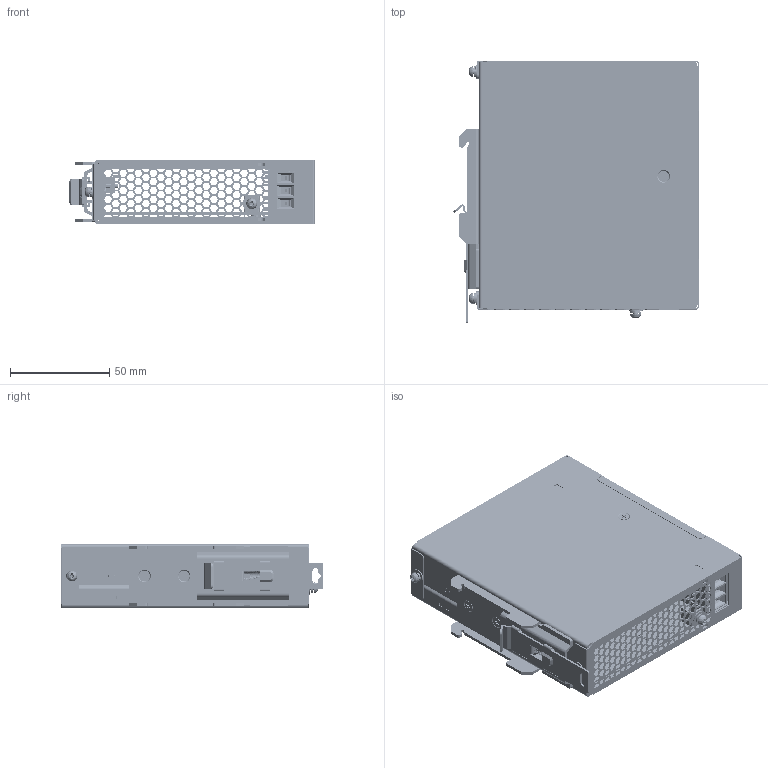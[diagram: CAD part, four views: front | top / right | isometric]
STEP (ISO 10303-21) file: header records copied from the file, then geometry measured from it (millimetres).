
FILE_DESCRIPTION( ('This file contains a STEP AP42 implementation' ,'as created by ZW3D STEP Interface translator.') ,'2;1' );
FILE_NAME( 'GW-DR75N.stp' ,'24 7 9.171115', (''), ('ZWCAD Software Co.'), 'Version 1.0', 'ZW3D to STEP translator', '' );
FILE_SCHEMA(('AUTOMOTIVE_DESIGN { 1 0 10303 214 1 1 1 1 }'));
Length unit declared in the file: millimetre
Products named in the file (44): 0; 120WS; CASE-B-1; CASE-B; SCREW_5_1_1; CASE-T; ema_5-04-6_35-00_asm; 221400003; ASM0001_ASM; 550100061; 330400045; ASM0001_ASM1; ASM0001_ASM2; 660300111; ASM0001_ASM3; ema_5-xx-6_35-00_asm; ASM0001_ASM4; ASM0001_ASM5; ASM0001_ASM6; CASE-B-2; TEN; 縐諶; 錨璃001; 錨璃002; 粟銅; TAM11-M3-L6; TAM11-M3-L6-003; TAM11-M3-L6-002; TAM11-M3-L6-001; TAM11-M3-L61; TAP02-M3-L4; TAM11-M3-L62; LED.PRT; 3362W001XXX0A; GW-DR75N-24-MAINV0220240524; Board_1; Open CASCADE STEP translator 7.5 1.1.1_1; GW-DR120S-24-ACV0220240524; Board_2; Open CASCADE STEP translator 7.5 2.1.1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
Assembly tree (71 placements, depth 4):
  0
  120WS
    CASE-B-1
      CASE-B
      SCREW_5_1_1
    CASE-T
    ema_5-04-6_35-00_asm
      221400003  x2
      ASM0001_ASM
        550100061
        330400045
      ASM0001_ASM1
        550100061
        330400045
      ASM0001_ASM2
        550100061
        330400045
      660300111  x4
      ASM0001_ASM3
        550100061
        330400045
    ema_5-xx-6_35-00_asm
      221400003
      ASM0001_ASM4
        550100061
        330400045
      ASM0001_ASM5
        550100061
        330400045
      ASM0001_ASM6
        550100061
        330400045
      660300111  x3
    CASE-B-2
    TEN  x2
    縐諶
      錨璃001
      錨璃002
      粟銅
    TAM11-M3-L6
      TAM11-M3-L6-003
      TAM11-M3-L6-002
      TAM11-M3-L6-001
    TAM11-M3-L61
      TAM11-M3-L6-003
      TAM11-M3-L6-002
      TAM11-M3-L6-001
    TAP02-M3-L4  x3
    TAM11-M3-L62
      TAM11-M3-L6-003
      TAM11-M3-L6-002
      TAM11-M3-L6-001
    LED.PRT
    3362W001XXX0A
    GW-DR75N-24-MAINV0220240524
      Board_1
        Open CASCADE STEP translator 7.5 1.1.1_1
    GW-DR120S-24-ACV0220240524
      Board_2
        Open CASCADE STEP translator 7.5 2.1.1
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Bounding box: 123.44 x 132.2 x 32 mm (x, y, z)
Volume: 98446.7 mm3; surface area: 200441.1 mm2
Topology: 57 solids, 57 shells, 5812 faces, 16022 edges, 10380 vertices
Faces by surface type: plane 4185, cylinder 928, bspline 458, cone 177, torus 62, sphere 2
Full cylindrical faces by diameter (mm): 0.4 x6, 0.6 x2, 0.7 x11, 0.762 x1, 0.8 x3, 0.9 x4, 0.95 x12, 1 x43, 1.1 x4, 1.15 x2, 1.2 x12, 1.4 x4, 1.5 x3, 2.2 x2, 2.387 x3, 2.393 x1, 2.4 x3, 2.5 x7, 2.78 x3, 3 x3, 3.2 x2, 3.3 x2, 3.4 x3, 3.5 x9, 4.5 x1, 5 x5, 5.5 x4, 6 x1, 7 x3
Entity records: 249787 total; most frequent: CARTESIAN_POINT 142796, ORIENTED_EDGE 21730, DIRECTION 19732, EDGE_CURVE 10865, VECTOR 9348, LINE 9348, VERTEX_POINT 7101, AXIS2_PLACEMENT_3D 5192
